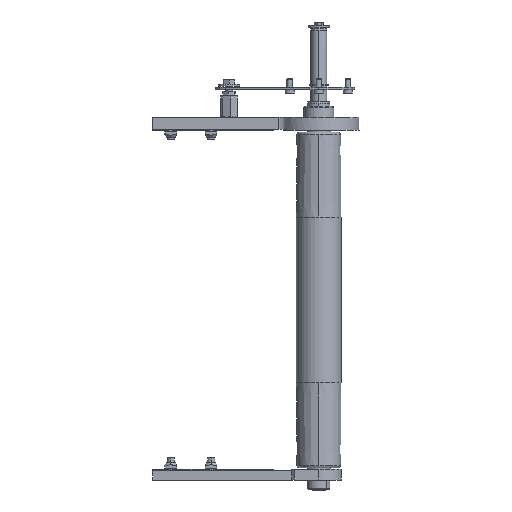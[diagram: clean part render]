
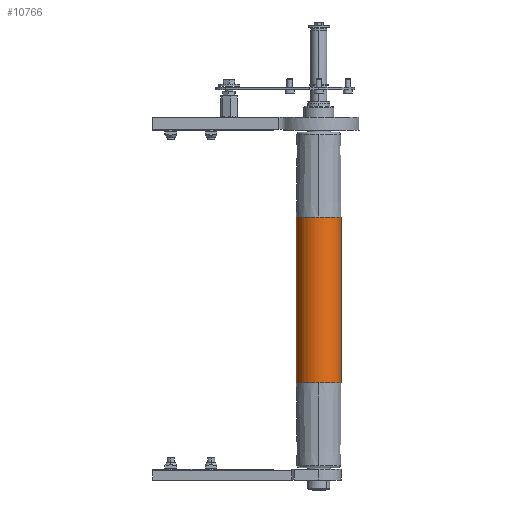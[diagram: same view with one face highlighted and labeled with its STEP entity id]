
A CAD part, front view. The second image highlights one B-rep face of the part: STEP entity #10766.
In plain terms, the highlighted cylindrical face has radius 25 mm (diameter 50 mm), a partial arc.
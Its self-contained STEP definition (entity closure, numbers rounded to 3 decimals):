
#890 = ORIENTED_EDGE ( 'NONE', *, *, #3809, .F. ) ;
#891 = EDGE_LOOP ( 'NONE', ( #16697, #16078, #17067, #7025, #890, #10861 ) ) ;
#1472 = CARTESIAN_POINT ( 'NONE',  ( 185., 0., 25. ) ) ;
#1664 = CARTESIAN_POINT ( 'NONE',  ( -92.5, 0., 0. ) ) ;
#2832 = AXIS2_PLACEMENT_3D ( 'NONE', #11874, #9937, #8335 ) ;
#3809 = EDGE_CURVE ( 'NONE', #17487, #4208, #7302, .T. ) ;
#4208 = VERTEX_POINT ( 'NONE', #9397 ) ;
#4647 = DIRECTION ( 'NONE',  ( -1., 0., 0. ) ) ;
#6813 = DIRECTION ( 'NONE',  ( -1., 0., 0. ) ) ;
#7025 = ORIENTED_EDGE ( 'NONE', *, *, #13543, .F. ) ;
#7302 = CIRCLE ( 'NONE', #16140, 25. ) ;
#7355 = DIRECTION ( 'NONE',  ( -1., 0., 0. ) ) ;
#7497 = CARTESIAN_POINT ( 'NONE',  ( 92.5, 0., 25. ) ) ;
#7699 = CARTESIAN_POINT ( 'NONE',  ( -92.5, 0., 0. ) ) ;
#8119 = DIRECTION ( 'NONE',  ( -1., 0., 0. ) ) ;
#8335 = DIRECTION ( 'NONE',  ( 0., -1., 0. ) ) ;
#8516 = CIRCLE ( 'NONE', #2832, 25. ) ;
#8667 = EDGE_CURVE ( 'NONE', #15766, #15099, #9625, .T. ) ;
#9397 = CARTESIAN_POINT ( 'NONE',  ( -92.5, 25., 0. ) ) ;
#9625 = LINE ( 'NONE', #15262, #19916 ) ;
#9937 = DIRECTION ( 'NONE',  ( -1., 0., 0. ) ) ;
#10536 = EDGE_CURVE ( 'NONE', #21320, #15766, #8516, .T. ) ;
#10766 = ADVANCED_FACE ( 'NONE', ( #17169 ), #13038, .T. ) ;
#10861 = ORIENTED_EDGE ( 'NONE', *, *, #19987, .F. ) ;
#10881 = AXIS2_PLACEMENT_3D ( 'NONE', #12049, #7355, #13922 ) ;
#11726 = DIRECTION ( 'NONE',  ( 0., -1., 0. ) ) ;
#11874 = CARTESIAN_POINT ( 'NONE',  ( 92.5, 0., 0. ) ) ;
#11971 = CARTESIAN_POINT ( 'NONE',  ( 92.5, 25., 0. ) ) ;
#12049 = CARTESIAN_POINT ( 'NONE',  ( 185., 0., 0. ) ) ;
#12617 = AXIS2_PLACEMENT_3D ( 'NONE', #13947, #13657, #18550 ) ;
#13038 = CYLINDRICAL_SURFACE ( 'NONE', #10881, 25. ) ;
#13301 = DIRECTION ( 'NONE',  ( -1., 0., 0. ) ) ;
#13406 = CARTESIAN_POINT ( 'NONE',  ( 92.5, 0., -25. ) ) ;
#13473 = VERTEX_POINT ( 'NONE', #7497 ) ;
#13543 = EDGE_CURVE ( 'NONE', #4208, #15099, #19994, .T. ) ;
#13657 = DIRECTION ( 'NONE',  ( -1., 0., 0. ) ) ;
#13922 = DIRECTION ( 'NONE',  ( 0., 0., 1. ) ) ;
#13947 = CARTESIAN_POINT ( 'NONE',  ( 92.5, 0., 0. ) ) ;
#14482 = CARTESIAN_POINT ( 'NONE',  ( -92.5, 0., 25. ) ) ;
#15099 = VERTEX_POINT ( 'NONE', #16104 ) ;
#15262 = CARTESIAN_POINT ( 'NONE',  ( 185., 0., -25. ) ) ;
#15437 = VECTOR ( 'NONE', #8119, 1000. ) ;
#15766 = VERTEX_POINT ( 'NONE', #13406 ) ;
#16056 = DIRECTION ( 'NONE',  ( 0., -1., 0. ) ) ;
#16078 = ORIENTED_EDGE ( 'NONE', *, *, #10536, .T. ) ;
#16104 = CARTESIAN_POINT ( 'NONE',  ( -92.5, 0., -25. ) ) ;
#16140 = AXIS2_PLACEMENT_3D ( 'NONE', #1664, #13301, #11726 ) ;
#16697 = ORIENTED_EDGE ( 'NONE', *, *, #19411, .T. ) ;
#17067 = ORIENTED_EDGE ( 'NONE', *, *, #8667, .T. ) ;
#17169 = FACE_OUTER_BOUND ( 'NONE', #891, .T. ) ;
#17487 = VERTEX_POINT ( 'NONE', #14482 ) ;
#18550 = DIRECTION ( 'NONE',  ( 0., -1., 0. ) ) ;
#18669 = AXIS2_PLACEMENT_3D ( 'NONE', #7699, #4647, #16056 ) ;
#19411 = EDGE_CURVE ( 'NONE', #13473, #21320, #20075, .T. ) ;
#19794 = LINE ( 'NONE', #1472, #15437 ) ;
#19916 = VECTOR ( 'NONE', #6813, 1000. ) ;
#19987 = EDGE_CURVE ( 'NONE', #13473, #17487, #19794, .T. ) ;
#19994 = CIRCLE ( 'NONE', #18669, 25. ) ;
#20075 = CIRCLE ( 'NONE', #12617, 25. ) ;
#21320 = VERTEX_POINT ( 'NONE', #11971 ) ;
